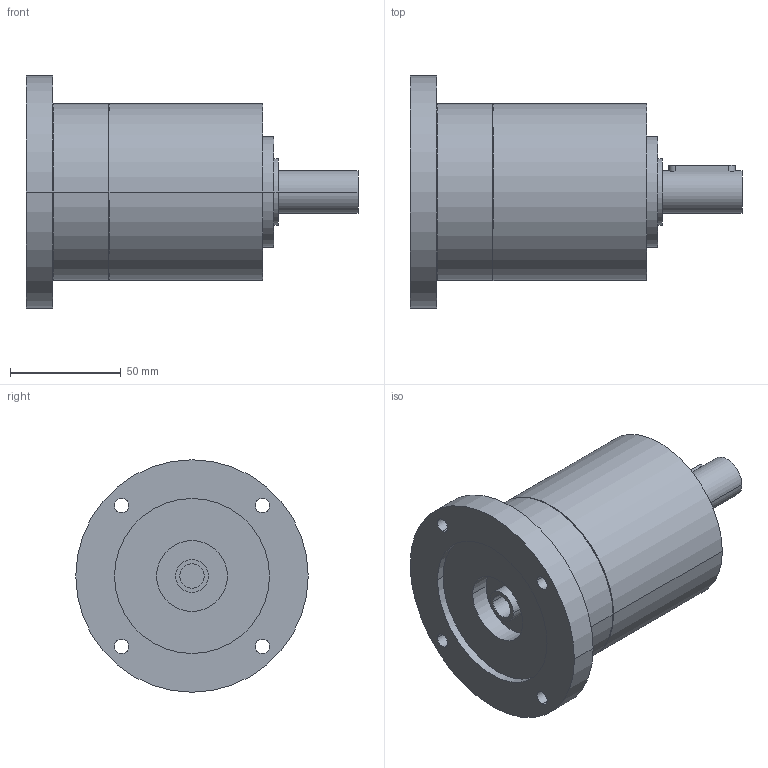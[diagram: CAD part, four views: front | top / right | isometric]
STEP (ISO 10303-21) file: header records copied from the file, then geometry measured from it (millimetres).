
FILE_DESCRIPTION(('CoCreate Modeling STEP Export'),'2;1');
FILE_NAME('GPR100_ig-3-4-5-6_19_B14_11_P12.stp','2014-08-26T10:01:42',(''),(''),'CoCreate Modeling STEP processor for AP214 (Solid Model)','CoCreate Modeling 16.00C 25-Feb-2009 (C) Parametric Technology GmbH','');
FILE_SCHEMA(('AUTOMOTIVE_DESIGN { 1 0 10303 214 1 1 1 1 }'));
Length unit declared in the file: millimetre
Products named in the file (2): GPR100_ig-3-4-5-6_19_B14_11_P12
Assembly tree (1 placements, depth 2):
  GPR100_ig-3-4-5-6_19_B14_11_P12
    GPR100_ig-3-4-5-6_19_B14_11_P12
Bounding box: 150 x 105 x 105 mm (x, y, z)
Volume: 576815.9 mm3; surface area: 53930.6 mm2
Topology: 1 solids, 1 shells, 76 faces, 204 edges, 146 vertices
Faces by surface type: cylinder 48, plane 22, cone 6
Entity records: 2032 total; most frequent: ORIENTED_EDGE 404, CARTESIAN_POINT 371, DIRECTION 262, EDGE_CURVE 202, VERTEX_POINT 146, EDGE_LOOP 102, AXIS2_PLACEMENT_3D 101, FACE_OUTER_BOUND 76
